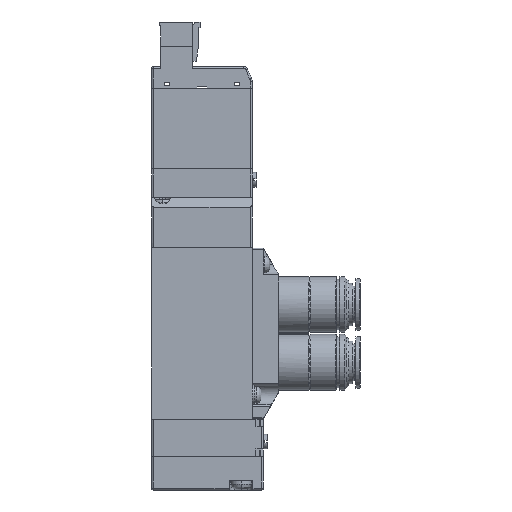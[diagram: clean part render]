
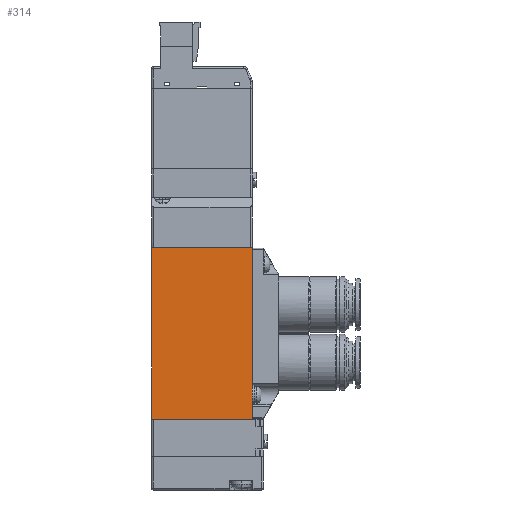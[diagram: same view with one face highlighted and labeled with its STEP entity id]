
A CAD part, left-side view. The second image highlights one B-rep face of the part: STEP entity #314.
In plain terms, the highlighted planar face has unit normal (-1, 0, 0).
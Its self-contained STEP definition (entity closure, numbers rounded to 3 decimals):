
#314=ADVANCED_FACE('',(#903),#902,.T.);
#902=PLANE('',#5187);
#903=FACE_OUTER_BOUND('',#5188,.T.);
#5184=CARTESIAN_POINT('',(-7.5,-29.7,-4.6));
#5185=DIRECTION('',(-1.,0.,0.));
#5186=DIRECTION('',(0.,0.,1.));
#5187=AXIS2_PLACEMENT_3D('',#5184,#5185,#5186);
#5188=EDGE_LOOP('',(#8151,#8152,#8153,#8154,#8155,#8156));
#8151=ORIENTED_EDGE('',*,*,#10281,.F.);
#8152=ORIENTED_EDGE('',*,*,#10282,.F.);
#8153=ORIENTED_EDGE('',*,*,#10283,.T.);
#8154=ORIENTED_EDGE('',*,*,#10278,.T.);
#8155=ORIENTED_EDGE('',*,*,#10284,.F.);
#8156=ORIENTED_EDGE('',*,*,#10219,.T.);
#10219=EDGE_CURVE('',#11348,#11349,#11350,.T.);
#10278=EDGE_CURVE('',#11754,#11746,#11755,.T.);
#10281=EDGE_CURVE('',#11774,#11349,#11775,.T.);
#10282=EDGE_CURVE('',#11781,#11774,#11782,.T.);
#10283=EDGE_CURVE('',#11781,#11754,#11788,.T.);
#10284=EDGE_CURVE('',#11348,#11746,#11794,.T.);
#11348=VERTEX_POINT('',#18420);
#11349=VERTEX_POINT('',#18421);
#11350=LINE('',#18422,#18423);
#11746=VERTEX_POINT('',#18645);
#11754=VERTEX_POINT('',#18650);
#11755=LINE('',#18651,#18652);
#11774=VERTEX_POINT('',#18661);
#11775=LINE('',#18662,#18663);
#11781=VERTEX_POINT('',#18665);
#11782=LINE('',#18666,#18667);
#11788=LINE('',#18669,#18670);
#11794=LINE('',#18672,#18673);
#18420=CARTESIAN_POINT('',(-7.5,-27.,4.839));
#18421=CARTESIAN_POINT('',(-7.5,-27.,8.161));
#18422=CARTESIAN_POINT('',(-7.5,-27.,4.839));
#18423=VECTOR('',#18424,3.323);
#18424=DIRECTION('',(0.,0.,1.));
#18645=CARTESIAN_POINT('',(-7.5,-27.,0.));
#18650=CARTESIAN_POINT('',(-7.5,0.,0.));
#18651=CARTESIAN_POINT('',(-7.5,0.,0.));
#18652=VECTOR('',#18653,27.);
#18653=DIRECTION('',(0.,-1.,0.));
#18661=CARTESIAN_POINT('',(-7.5,-27.,46.));
#18662=CARTESIAN_POINT('',(-7.5,-27.,46.));
#18663=VECTOR('',#18664,37.839);
#18664=DIRECTION('',(0.,0.,-1.));
#18665=CARTESIAN_POINT('',(-7.5,0.,46.));
#18666=CARTESIAN_POINT('',(-7.5,0.,46.));
#18667=VECTOR('',#18668,27.);
#18668=DIRECTION('',(0.,-1.,0.));
#18669=CARTESIAN_POINT('',(-7.5,0.,46.));
#18670=VECTOR('',#18671,46.);
#18671=DIRECTION('',(0.,0.,-1.));
#18672=CARTESIAN_POINT('',(-7.5,-27.,4.839));
#18673=VECTOR('',#18674,4.839);
#18674=DIRECTION('',(0.,0.,-1.));
